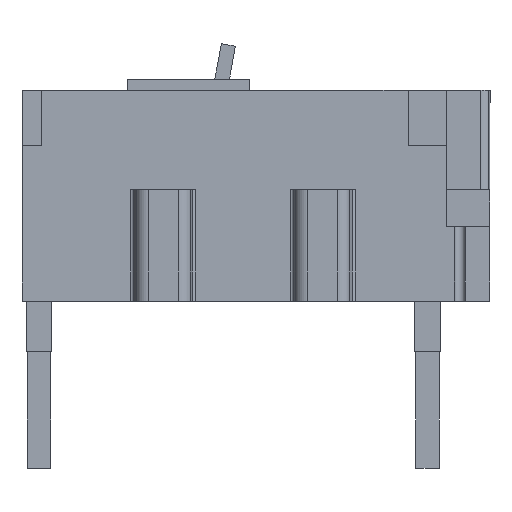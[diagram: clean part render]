
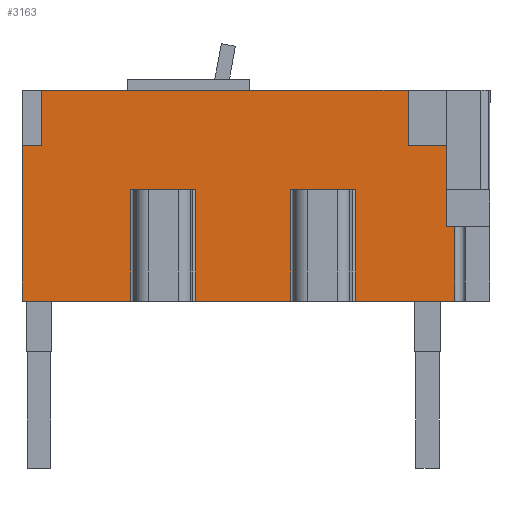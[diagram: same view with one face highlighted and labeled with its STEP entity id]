
A CAD part, left-side view. The second image highlights one B-rep face of the part: STEP entity #3163.
In plain terms, the highlighted planar face has unit normal (-1, 0, 0).
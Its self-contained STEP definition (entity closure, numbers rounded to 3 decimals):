
#65 = ORIENTED_EDGE ( 'NONE', *, *, #4232, .F. ) ;
#123 = ORIENTED_EDGE ( 'NONE', *, *, #2219, .F. ) ;
#172 = CARTESIAN_POINT ( 'NONE',  ( -225., 63.042, 162.85 ) ) ;
#217 = CARTESIAN_POINT ( 'NONE',  ( -225., 0., 0. ) ) ;
#358 = DIRECTION ( 'NONE',  ( 0., 0., 1. ) ) ;
#380 = CARTESIAN_POINT ( 'NONE',  ( -225., 27.25, 0. ) ) ;
#448 = ORIENTED_EDGE ( 'NONE', *, *, #4978, .F. ) ;
#481 = CARTESIAN_POINT ( 'NONE',  ( -225., 361., 0. ) ) ;
#484 = VERTEX_POINT ( 'NONE', #380 ) ;
#691 = CARTESIAN_POINT ( 'NONE',  ( -225., 361., 0. ) ) ;
#723 = DIRECTION ( 'NONE',  ( 0., 1., 0. ) ) ;
#771 = VERTEX_POINT ( 'NONE', #913 ) ;
#831 = LINE ( 'NONE', #2991, #5933 ) ;
#909 = VECTOR ( 'NONE', #1695, 1000. ) ;
#913 = CARTESIAN_POINT ( 'NONE',  ( -225., 27.25, 57.45 ) ) ;
#1035 = DIRECTION ( 'NONE',  ( 0., -1., 0. ) ) ;
#1045 = EDGE_CURVE ( 'NONE', #4087, #771, #3070, .T. ) ;
#1065 = CARTESIAN_POINT ( 'NONE',  ( -225., 33.677, 57.45 ) ) ;
#1074 = DIRECTION ( 'NONE',  ( 0., 0., -1. ) ) ;
#1271 = ORIENTED_EDGE ( 'NONE', *, *, #3120, .T. ) ;
#1378 = ORIENTED_EDGE ( 'NONE', *, *, #6065, .F. ) ;
#1439 = DIRECTION ( 'NONE',  ( 0., -1., 0. ) ) ;
#1482 = VERTEX_POINT ( 'NONE', #6401 ) ;
#1636 = ORIENTED_EDGE ( 'NONE', *, *, #1045, .F. ) ;
#1640 = ORIENTED_EDGE ( 'NONE', *, *, #3358, .F. ) ;
#1682 = CARTESIAN_POINT ( 'NONE',  ( -225., 33.677, 57.45 ) ) ;
#1695 = DIRECTION ( 'NONE',  ( 0., 0., 1. ) ) ;
#1838 = CARTESIAN_POINT ( 'NONE',  ( -225., 346.2, 120.35 ) ) ;
#2045 = ORIENTED_EDGE ( 'NONE', *, *, #4488, .F. ) ;
#2219 = EDGE_CURVE ( 'NONE', #484, #4972, #4480, .T. ) ;
#2270 = VERTEX_POINT ( 'NONE', #4260 ) ;
#2300 = CARTESIAN_POINT ( 'NONE',  ( -225., 33.596, 120.35 ) ) ;
#2315 = CARTESIAN_POINT ( 'NONE',  ( -225., 33.542, 162.85 ) ) ;
#2338 = EDGE_CURVE ( 'NONE', #3963, #2270, #2554, .T. ) ;
#2554 = LINE ( 'NONE', #1838, #3689 ) ;
#2875 = VERTEX_POINT ( 'NONE', #2300 ) ;
#2981 = VECTOR ( 'NONE', #4065, 1000. ) ;
#2991 = CARTESIAN_POINT ( 'NONE',  ( -225., 63.042, 120.35 ) ) ;
#3033 = CARTESIAN_POINT ( 'NONE',  ( -225., 0., 0. ) ) ;
#3070 = LINE ( 'NONE', #1065, #5707 ) ;
#3120 = EDGE_CURVE ( 'NONE', #1482, #3526, #831, .T. ) ;
#3163 = ADVANCED_FACE ( 'NONE', ( #3280 ), #3509, .F. ) ;
#3185 = ORIENTED_EDGE ( 'NONE', *, *, #2338, .F. ) ;
#3273 = VECTOR ( 'NONE', #5781, 1000. ) ;
#3280 = FACE_OUTER_BOUND ( 'NONE', #6378, .T. ) ;
#3281 = LINE ( 'NONE', #3466, #3648 ) ;
#3358 = EDGE_CURVE ( 'NONE', #4972, #3723, #3503, .T. ) ;
#3379 = VECTOR ( 'NONE', #3538, 1000. ) ;
#3466 = CARTESIAN_POINT ( 'NONE',  ( -225., 361., 162.85 ) ) ;
#3503 = LINE ( 'NONE', #691, #909 ) ;
#3509 = PLANE ( 'NONE',  #3693 ) ;
#3524 = LINE ( 'NONE', #5041, #3379 ) ;
#3526 = VERTEX_POINT ( 'NONE', #172 ) ;
#3538 = DIRECTION ( 'NONE',  ( 0., -1., 0. ) ) ;
#3648 = VECTOR ( 'NONE', #1035, 1000. ) ;
#3689 = VECTOR ( 'NONE', #358, 1000. ) ;
#3693 = AXIS2_PLACEMENT_3D ( 'NONE', #3033, #4010, #1074 ) ;
#3723 = VERTEX_POINT ( 'NONE', #4822 ) ;
#3963 = VERTEX_POINT ( 'NONE', #6026 ) ;
#4010 = DIRECTION ( 'NONE',  ( 1., 0., 0. ) ) ;
#4065 = DIRECTION ( 'NONE',  ( 0., 0., -1. ) ) ;
#4087 = VERTEX_POINT ( 'NONE', #1682 ) ;
#4232 = EDGE_CURVE ( 'NONE', #2875, #4087, #4436, .T. ) ;
#4260 = CARTESIAN_POINT ( 'NONE',  ( -225., 346.2, 162.85 ) ) ;
#4379 = CARTESIAN_POINT ( 'NONE',  ( -225., 33.542, 120.35 ) ) ;
#4391 = EDGE_CURVE ( 'NONE', #1482, #2875, #4970, .T. ) ;
#4436 = LINE ( 'NONE', #2315, #3273 ) ;
#4480 = LINE ( 'NONE', #217, #5812 ) ;
#4488 = EDGE_CURVE ( 'NONE', #2270, #3526, #3281, .T. ) ;
#4822 = CARTESIAN_POINT ( 'NONE',  ( -225., 361., 120.35 ) ) ;
#4970 = LINE ( 'NONE', #4379, #5141 ) ;
#4972 = VERTEX_POINT ( 'NONE', #481 ) ;
#4978 = EDGE_CURVE ( 'NONE', #771, #484, #5616, .T. ) ;
#5041 = CARTESIAN_POINT ( 'NONE',  ( -225., 361., 120.35 ) ) ;
#5141 = VECTOR ( 'NONE', #1439, 1000. ) ;
#5616 = LINE ( 'NONE', #6399, #2981 ) ;
#5707 = VECTOR ( 'NONE', #5985, 1000. ) ;
#5781 = DIRECTION ( 'NONE',  ( 0., 0.001, -1. ) ) ;
#5812 = VECTOR ( 'NONE', #723, 1000. ) ;
#5894 = ORIENTED_EDGE ( 'NONE', *, *, #4391, .F. ) ;
#5933 = VECTOR ( 'NONE', #5982, 1000. ) ;
#5982 = DIRECTION ( 'NONE',  ( 0., 0., 1. ) ) ;
#5985 = DIRECTION ( 'NONE',  ( 0., -1., 0. ) ) ;
#6026 = CARTESIAN_POINT ( 'NONE',  ( -225., 346.2, 120.35 ) ) ;
#6065 = EDGE_CURVE ( 'NONE', #3723, #3963, #3524, .T. ) ;
#6378 = EDGE_LOOP ( 'NONE', ( #123, #448, #1636, #65, #5894, #1271, #2045, #3185, #1378, #1640 ) ) ;
#6399 = CARTESIAN_POINT ( 'NONE',  ( -225., 27.25, 70.959 ) ) ;
#6401 = CARTESIAN_POINT ( 'NONE',  ( -225., 63.042, 120.35 ) ) ;
